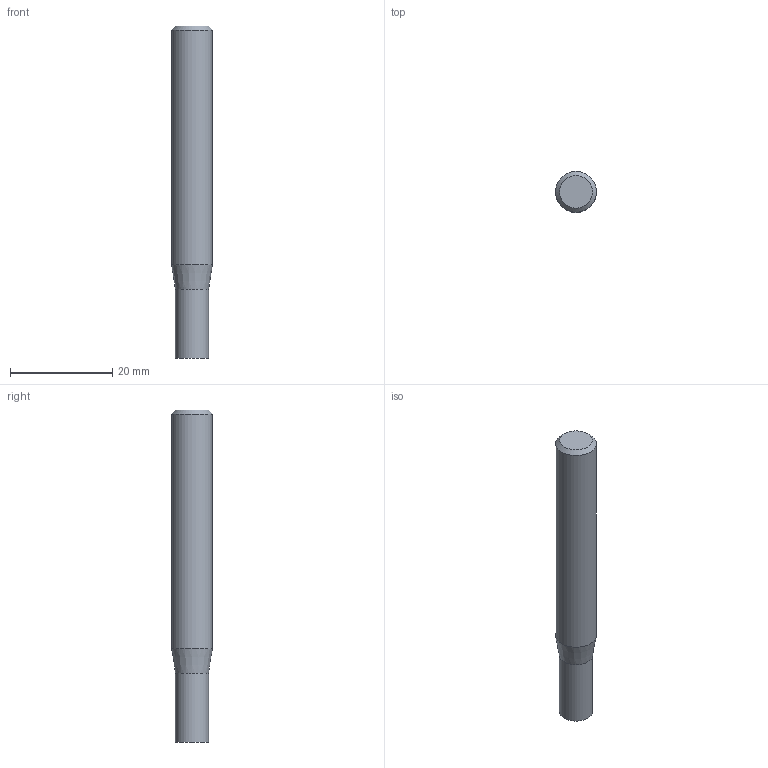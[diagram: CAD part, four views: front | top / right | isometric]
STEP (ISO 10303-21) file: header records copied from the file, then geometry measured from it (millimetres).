
FILE_DESCRIPTION((''),'2;1');
FILE_NAME('C:\Users\nsx150\AppData\Local\Temp\Mastercam 2021\98T1Q6BTT1\TEMP.step','2021-10-21T14:49:09',(''),(''),'STEP Write','Mastercam 2021 ... CNC Software, Inc.','');
FILE_SCHEMA(('AUTOMOTIVE_DESIGN'));
Length unit declared in the file: millimetre
Products named in the file (1): None
Bounding box: 8 x 8 x 65 mm (x, y, z)
Volume: 2987.3 mm3; surface area: 1697.4 mm2
Topology: 2 solids, 2 shells, 8 faces, 10 edges, 6 vertices
Faces by surface type: plane 4, cylinder 2, cone 2
Full cylindrical faces by diameter (mm): 6.5 x1, 8 x1
Entity records: 190 total; most frequent: DIRECTION 32, CARTESIAN_POINT 22, AXIS2_PLACEMENT_3D 16, ORIENTED_EDGE 12, EDGE_LOOP 12, STYLED_ITEM 11, ADVANCED_FACE 8, VERTEX_POINT 6
